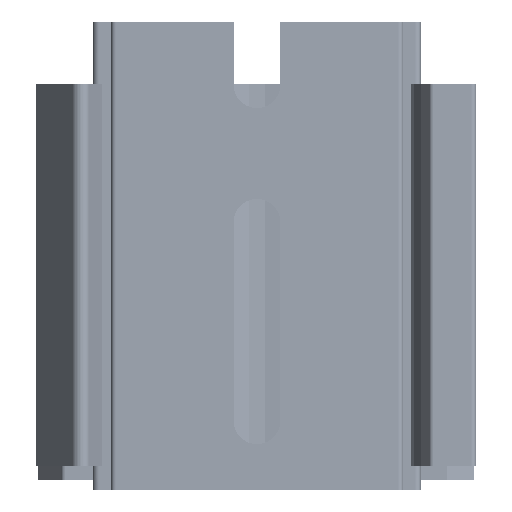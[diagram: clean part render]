
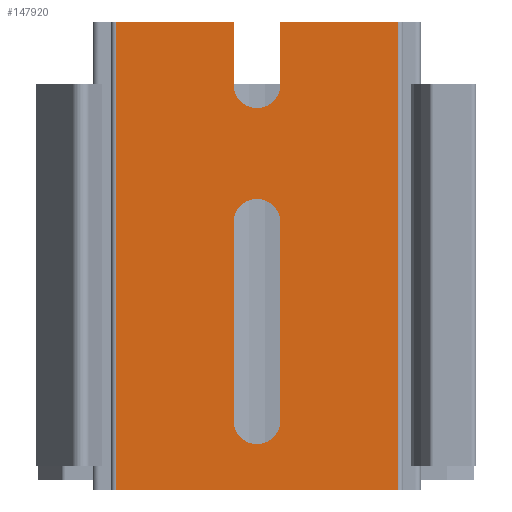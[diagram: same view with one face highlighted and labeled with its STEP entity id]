
A CAD part, front view. The second image highlights one B-rep face of the part: STEP entity #147920.
In plain terms, the highlighted planar face has unit normal (0, -1, 0).
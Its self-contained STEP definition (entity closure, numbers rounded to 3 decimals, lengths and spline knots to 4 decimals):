
#8537=CARTESIAN_POINT('',(0.6891,0.,-0.2638));
#8538=DIRECTION('',(0.,-1.,0.));
#8539=DIRECTION('',(-1.,0.,0.));
#8540=AXIS2_PLACEMENT_3D('',#8537,#8538,#8539);
#8542=DIRECTION('',(1.,0.,0.));
#8543=VECTOR('',#8542,0.4961);
#8544=CARTESIAN_POINT('',(0.7875,0.,0.));
#8545=LINE('',#8544,#8543);
#8546=DIRECTION('',(-1.,0.,0.));
#8547=VECTOR('',#8546,1.189);
#8548=CARTESIAN_POINT('',(1.2836,0.,
-1.9685));
#8549=LINE('',#8548,#8547);
#8550=DIRECTION('',(1.,0.,0.));
#8551=VECTOR('',#8550,0.4961);
#8552=CARTESIAN_POINT('',(0.0946,0.,0.));
#8553=LINE('',#8552,#8551);
#8554=DIRECTION('',(0.,0.,-1.));
#8555=VECTOR('',#8554,0.2638);
#8556=CARTESIAN_POINT('',(0.5906,0.,0.));
#8557=LINE('',#8556,#8555);
#8558=CARTESIAN_POINT('',(0.6891,0.,-1.6772));
#8559=DIRECTION('',(0.,-1.,0.));
#8560=DIRECTION('',(-1.,0.,0.));
#8561=AXIS2_PLACEMENT_3D('',#8558,#8559,#8560);
#8563=CARTESIAN_POINT('',(0.6891,0.,-0.8425));
#8564=DIRECTION('',(0.,-1.,0.));
#8565=DIRECTION('',(1.,0.,0.));
#8566=AXIS2_PLACEMENT_3D('',#8563,#8564,#8565);
#66872=DIRECTION('',(0.,0.,1.));
#66873=VECTOR('',#66872,1.9685);
#66874=CARTESIAN_POINT('',(1.2836,0.,
-1.9685));
#66875=LINE('',#66874,#66873);
#66919=DIRECTION('',(0.,0.,-1.));
#66920=VECTOR('',#66919,0.2638);
#66921=CARTESIAN_POINT('',(0.7875,0.,0.));
#66922=LINE('',#66921,#66920);
#66959=DIRECTION('',(0.,0.,1.));
#66960=VECTOR('',#66959,0.8346);
#66961=CARTESIAN_POINT('',(0.5906,0.,-1.6772));
#66962=LINE('',#66961,#66960);
#66971=DIRECTION('',(0.,0.,-1.));
#66972=VECTOR('',#66971,0.8346);
#66973=CARTESIAN_POINT('',(0.7875,0.,-0.8425));
#66974=LINE('',#66973,#66972);
#69367=DIRECTION('',(0.,0.,-1.));
#69368=VECTOR('',#69367,1.9685);
#69369=CARTESIAN_POINT('',(0.0946,0.,0.));
#69370=LINE('',#69369,#69368);
#108607=CARTESIAN_POINT('',(0.0946,0.,-1.9685));
#108608=VERTEX_POINT('',#108607);
#108609=CARTESIAN_POINT('',(1.2836,0.,
-1.9685));
#108611=VERTEX_POINT('',#108609);
#108637=CARTESIAN_POINT('',(0.5906,0.,0.));
#108639=VERTEX_POINT('',#108637);
#108641=CARTESIAN_POINT('',(0.0946,0.,0.));
#108643=VERTEX_POINT('',#108641);
#108668=CARTESIAN_POINT('',(0.7875,0.,0.));
#108670=VERTEX_POINT('',#108668);
#108695=CARTESIAN_POINT('',(1.2836,0.,0.));
#108696=VERTEX_POINT('',#108695);
#108697=CARTESIAN_POINT('',(0.5906,0.,-0.2638));
#108699=VERTEX_POINT('',#108697);
#108701=CARTESIAN_POINT('',(0.5906,0.,-1.6772));
#108702=CARTESIAN_POINT('',(0.7875,0.,-1.6772));
#108703=VERTEX_POINT('',#108701);
#108704=VERTEX_POINT('',#108702);
#108705=CARTESIAN_POINT('',(0.7875,0.,-0.8425));
#108706=VERTEX_POINT('',#108705);
#108707=CARTESIAN_POINT('',(0.5906,0.,-0.8425));
#108708=VERTEX_POINT('',#108707);
#108709=CARTESIAN_POINT('',(0.7875,0.,-0.2638));
#108710=VERTEX_POINT('',#108709);
#147890=CARTESIAN_POINT('',(0.6891,0.,-0.9843));
#147891=DIRECTION('',(0.,1.,0.));
#147892=DIRECTION('',(1.,0.,0.));
#147893=AXIS2_PLACEMENT_3D('',#147890,#147891,#147892);
#147894=PLANE('',#147893);
#147896=ORIENTED_EDGE('',*,*,#147895,.T.);
#147898=ORIENTED_EDGE('',*,*,#147897,.F.);
#147900=ORIENTED_EDGE('',*,*,#147899,.T.);
#147902=ORIENTED_EDGE('',*,*,#147901,.F.);
#147903=ORIENTED_EDGE('',*,*,#147788,.T.);
#147905=ORIENTED_EDGE('',*,*,#147904,.F.);
#147906=ORIENTED_EDGE('',*,*,#147846,.T.);
#147907=ORIENTED_EDGE('',*,*,#147880,.T.);
#147908=EDGE_LOOP('',(#147896,#147898,#147900,#147902,#147903,#147905,#147906,
#147907));
#147909=FACE_OUTER_BOUND('',#147908,.F.);
#147911=ORIENTED_EDGE('',*,*,#147910,.T.);
#147913=ORIENTED_EDGE('',*,*,#147912,.F.);
#147915=ORIENTED_EDGE('',*,*,#147914,.T.);
#147917=ORIENTED_EDGE('',*,*,#147916,.F.);
#147918=EDGE_LOOP('',(#147911,#147913,#147915,#147917));
#147919=FACE_BOUND('',#147918,.F.);
#147920=ADVANCED_FACE('',(#147909,#147919),#147894,.F.);
#8541=CIRCLE('',#8540,0.0984);
#8562=CIRCLE('',#8561,0.0984);
#8567=CIRCLE('',#8566,0.0984);
#147788=EDGE_CURVE('',#108611,#108608,#8549,.T.);
#147846=EDGE_CURVE('',#108643,#108639,#8553,.T.);
#147880=EDGE_CURVE('',#108639,#108699,#8557,.T.);
#147895=EDGE_CURVE('',#108699,#108710,#8541,.T.);
#147897=EDGE_CURVE('',#108670,#108710,#66922,.T.);
#147899=EDGE_CURVE('',#108670,#108696,#8545,.T.);
#147901=EDGE_CURVE('',#108611,#108696,#66875,.T.);
#147904=EDGE_CURVE('',#108643,#108608,#69370,.T.);
#147910=EDGE_CURVE('',#108703,#108704,#8562,.T.);
#147912=EDGE_CURVE('',#108706,#108704,#66974,.T.);
#147914=EDGE_CURVE('',#108706,#108708,#8567,.T.);
#147916=EDGE_CURVE('',#108703,#108708,#66962,.T.);
